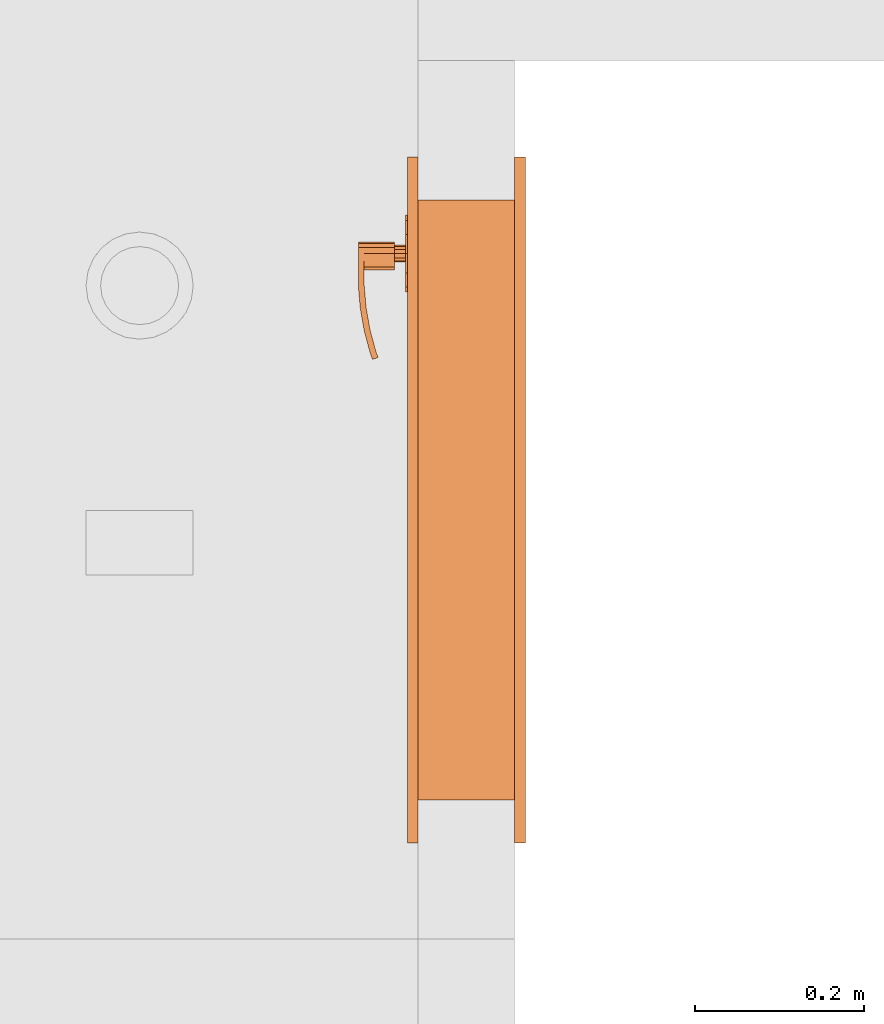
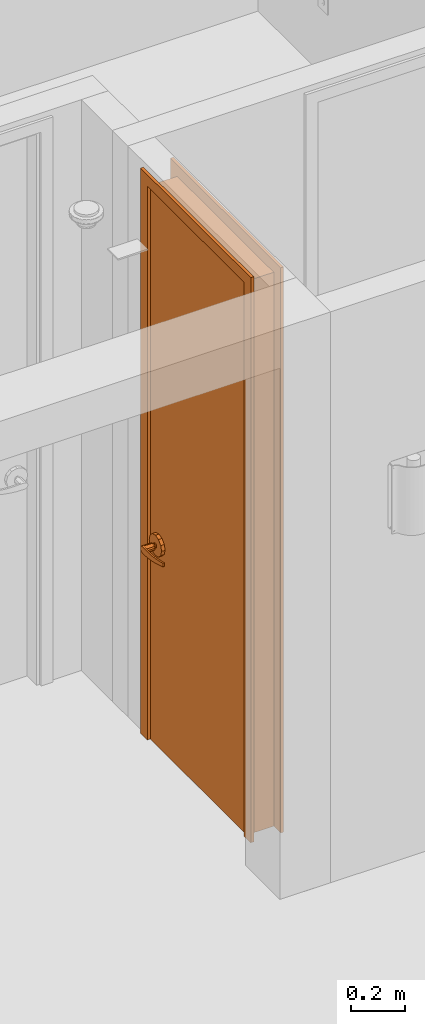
# One storey, part 22 of 48: 1 proxy.
"""IFC2X3 building model written with IfcOpenShell, lengths in inches."""

from ifc_helpers import new_model, entity, si_unit, converted_unit, derived_unit, money_unit, direction, frame, origin_with_axes, place, context, subcontext, project, spatial, open_shell, faceted_brep, surface_model, source, transform, mapped, type_object, element, save


model = new_model("IFC2X3")

# Units and contexts
model_context = context("Model", 3, precision=0.00039370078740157, world=origin_with_axes(), true_north=direction((0.0, 1.0)))
plan_context = context("Plan", 3, precision=0.00039370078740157, world=origin_with_axes(), true_north=direction((0.0, 1.0)))
body_context = subcontext(model_context, "Body", "Model", "MODEL_VIEW")
ifc_project = project(units=[converted_unit("LENGTHUNIT", "INCH", entity("IfcPositiveLengthMeasure", 0.0254), si_unit("LENGTHUNIT", "METRE"), dimensions=[1, 0, 0, 0, 0, 0, 0]), converted_unit("AREAUNIT", "SQUARE_FOOT", entity("IfcPositiveLengthMeasure", 0.09290304), si_unit("AREAUNIT", "SQUARE_METRE"), dimensions=[2, 0, 0, 0, 0, 0, 0]), si_unit("PLANEANGLEUNIT", "RADIAN"), si_unit("SOLIDANGLEUNIT", "STERADIAN"), money_unit("USD"), converted_unit("TIMEUNIT", "Year", entity("IfcTimeMeasure", 31557600.0), si_unit("TIMEUNIT", "SECOND"), dimensions=[0, 0, 1, 0, 0, 0, 0]), si_unit("MASSUNIT", "GRAM", prefix="KILO"), si_unit("THERMODYNAMICTEMPERATUREUNIT", "DEGREE_CELSIUS"), si_unit("LUMINOUSINTENSITYUNIT", "LUMEN"), si_unit("ENERGYUNIT", "JOULE", prefix="MEGA"), derived_unit("SPECIFICHEATCAPACITYUNIT", [(si_unit("ENERGYUNIT", "JOULE"), 1), (si_unit("MASSUNIT", "GRAM", prefix="KILO"), -1), (si_unit("THERMODYNAMICTEMPERATUREUNIT", "KELVIN"), -1)])], contexts=[model_context, plan_context])

# Site, building, storey
site_placement = place(None, origin_with_axes())
site = spatial("IfcSite", under=ifc_project, at=site_placement, Name="Site", CompositionType="ELEMENT")
building_placement = place(site_placement, origin_with_axes())
building = spatial("IfcBuilding", under=site, at=building_placement, Name="Building", CompositionType="ELEMENT")
storey_placement = place(building_placement, origin_with_axes())
storey = spatial("IfcBuildingStorey", under=building, at=storey_placement, Name="First Floor", CompositionType="ELEMENT", Elevation=0.0)

# Proxy
building_element_proxy_type = type_object("IfcBuildingElementProxyType", Name="D1", PredefinedType="NOTDEFINED")
shared_shape = source(origin_with_axes(), body_context, "Body", "SurfaceModel", [
    faceted_brep([(15.9999999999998, -4.999999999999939, 0.0), (13.99999999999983, -4.999999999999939, 0.0), (13.99999999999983, -4.499999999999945, 0.0), (15.9999999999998, -4.499999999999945, 0.0), (15.9999999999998, -4.999999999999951, 99.99999999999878), (13.99999999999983, -4.999999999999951, 97.99999999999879), (13.99999999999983, -4.499999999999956, 97.99999999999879), (15.9999999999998, -4.499999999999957, 99.99999999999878)], [[[0, 1, 2, 3]], [[0, 4, 5, 1]], [[1, 5, 6, 2]], [[3, 2, 6, 7]], [[4, 0, 3, 7]], [[5, 4, 7, 6]]]),
    faceted_brep([(-15.9999999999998, -4.999999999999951, 99.99999999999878), (-13.99999999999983, -4.999999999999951, 97.99999999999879), (-13.99999999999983, -4.499999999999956, 97.99999999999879), (-15.9999999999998, -4.499999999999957, 99.99999999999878), (-15.9999999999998, -4.999999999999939, 0.0), (-13.99999999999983, -4.999999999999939, 0.0), (-13.99999999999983, -4.499999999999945, 0.0), (-15.9999999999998, -4.499999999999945, 0.0)], [[[0, 1, 2, 3]], [[0, 4, 5, 1]], [[1, 5, 6, 2]], [[3, 2, 6, 7]], [[4, 0, 3, 7]], [[5, 4, 7, 6]]]),
    faceted_brep([(15.9999999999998, -4.999999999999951, 99.99999999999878), (13.99999999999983, -4.999999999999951, 97.99999999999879), (13.99999999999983, -4.499999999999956, 97.99999999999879), (15.9999999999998, -4.499999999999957, 99.99999999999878), (-15.9999999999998, -4.999999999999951, 99.99999999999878), (-13.99999999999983, -4.999999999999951, 97.99999999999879), (-13.99999999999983, -4.499999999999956, 97.99999999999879), (-15.9999999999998, -4.499999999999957, 99.99999999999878)], [[[0, 1, 2, 3]], [[0, 4, 5, 1]], [[1, 5, 6, 2]], [[3, 2, 6, 7]], [[4, 0, 3, 7]], [[5, 4, 7, 6]]]),
    faceted_brep([(15.9999999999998, 0.4999999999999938, 0.0), (15.9999999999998, 0.0, 0.0), (13.99999999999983, 0.0, 0.0), (13.99999999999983, 0.4999999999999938, 0.0), (15.9999999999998, 0.4999999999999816, 99.99999999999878), (15.9999999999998, 0.0, 99.99999999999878), (13.99999999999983, 0.0, 97.99999999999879), (13.99999999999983, 0.4999999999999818, 97.99999999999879)], [[[0, 1, 2, 3]], [[4, 5, 1, 0]], [[1, 5, 6, 2]], [[3, 2, 6, 7]], [[0, 3, 7, 4]], [[7, 6, 5, 4]]]),
    faceted_brep([(-15.9999999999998, 0.4999999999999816, 99.99999999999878), (-15.9999999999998, 0.0, 99.99999999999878), (-13.99999999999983, 0.0, 97.99999999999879), (-13.99999999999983, 0.4999999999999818, 97.99999999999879), (-15.9999999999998, 0.4999999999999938, 0.0), (-15.9999999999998, 0.0, 0.0), (-13.99999999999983, 0.0, 0.0), (-13.99999999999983, 0.4999999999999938, 0.0)], [[[0, 1, 2, 3]], [[4, 5, 1, 0]], [[1, 5, 6, 2]], [[3, 2, 6, 7]], [[0, 3, 7, 4]], [[7, 6, 5, 4]]]),
    faceted_brep([(15.9999999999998, 0.4999999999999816, 99.99999999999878), (15.9999999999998, 0.0, 99.99999999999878), (13.99999999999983, 0.0, 97.99999999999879), (13.99999999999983, 0.4999999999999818, 97.99999999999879), (-15.9999999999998, 0.4999999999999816, 99.99999999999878), (-15.9999999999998, 0.0, 99.99999999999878), (-13.99999999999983, 0.0, 97.99999999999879), (-13.99999999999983, 0.4999999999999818, 97.99999999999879)], [[[0, 1, 2, 3]], [[4, 5, 1, 0]], [[1, 5, 6, 2]], [[3, 2, 6, 7]], [[0, 3, 7, 4]], [[7, 6, 5, 4]]]),
    faceted_brep([(13.99999999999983, 0.0, 0.0), (13.99999999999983, -4.499999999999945, 0.0), (13.49999999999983, -4.499999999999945, 0.0), (13.49999999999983, 0.0, 0.0), (13.99999999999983, 0.0, 97.49999999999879), (13.99999999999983, -4.499999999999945, 97.49999999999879), (13.49999999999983, -4.499999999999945, 97.49999999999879), (13.49999999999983, 0.0, 97.49999999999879)], [[[0, 1, 2, 3]], [[4, 5, 1, 0]], [[1, 5, 6, 2]], [[3, 2, 6, 7]], [[0, 3, 7, 4]], [[7, 6, 5, 4]]]),
    faceted_brep([(-13.99999999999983, 0.0, 0.0), (-13.99999999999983, -4.499999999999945, 0.0), (-13.99999999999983, -4.499999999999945, 97.49999999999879), (-13.99999999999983, 0.0, 97.49999999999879), (-13.49999999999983, 0.0, 0.0), (-13.49999999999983, -4.499999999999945, 0.0), (-13.49999999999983, -4.499999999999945, 97.49999999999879), (-13.49999999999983, 0.0, 97.49999999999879)], [[[0, 1, 2, 3]], [[4, 5, 1, 0]], [[1, 5, 6, 2]], [[3, 2, 6, 7]], [[0, 3, 7, 4]], [[7, 6, 5, 4]]]),
    faceted_brep([(13.99999999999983, 0.0, 97.99999999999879), (13.99999999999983, -4.499999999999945, 97.99999999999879), (13.99999999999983, -4.499999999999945, 97.49999999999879), (13.99999999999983, 0.0, 97.49999999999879), (-13.99999999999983, 0.0, 97.99999999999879), (-13.99999999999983, -4.499999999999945, 97.99999999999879), (-13.99999999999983, -4.499999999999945, 97.49999999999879), (-13.49999999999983, -4.499999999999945, 97.49999999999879), (13.49999999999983, -4.499999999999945, 97.49999999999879), (13.49999999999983, 0.0, 97.49999999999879), (-13.49999999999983, 0.0, 97.49999999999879), (-13.99999999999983, 0.0, 97.49999999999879)], [[[0, 1, 2, 3]], [[4, 5, 1, 0]], [[1, 5, 6, 7, 8, 2]], [[3, 2, 8, 9]], [[0, 3, 9, 10, 11, 4]], [[11, 6, 5, 4]], [[10, 7, 6, 11]], [[9, 8, 7, 10]]]),
    surface_model("IfcShellBasedSurfaceModel", [(9.94865528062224, -2.340551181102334, 36.89566929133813), (9.94865528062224, -2.336614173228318, 36.89566929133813), (9.708661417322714, -2.336614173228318, 35.99999999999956), (9.708661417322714, -2.340551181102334, 35.99999999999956), (10.60433070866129, -2.340551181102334, 37.55134471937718), (10.60433070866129, -2.336614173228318, 37.55134471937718), (9.94865528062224, -1.753937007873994, 36.89566929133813), (9.708661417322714, -1.753937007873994, 35.99999999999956), (9.948655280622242, -2.336614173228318, 35.10433070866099), (9.948655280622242, -2.340551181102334, 35.10433070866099), (10.60433070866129, -2.340551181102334, 34.44865528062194), (11.49999999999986, -2.340551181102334, 34.20866141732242), (12.39566929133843, -2.340551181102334, 34.44865528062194), (13.05134471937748, -2.340551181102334, 35.10433070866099), (13.291338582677, -2.340551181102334, 35.99999999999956), (13.05134471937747, -2.340551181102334, 36.89566929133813), (12.39566929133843, -2.340551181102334, 37.55134471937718), (11.49999999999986, -2.340551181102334, 37.7913385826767), (11.49999999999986, -2.336614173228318, 37.7913385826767), (10.60433070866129, -1.753937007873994, 37.55134471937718), (9.94865528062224, -1.749999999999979, 36.89566929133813), (9.708661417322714, -1.749999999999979, 35.99999999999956), (9.948655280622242, -1.753937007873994, 35.10433070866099), (10.60433070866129, -2.336614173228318, 34.44865528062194), (11.49999999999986, -2.336614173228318, 34.20866141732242), (12.39566929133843, -2.336614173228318, 34.44865528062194), (13.05134471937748, -2.336614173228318, 35.10433070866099), (13.291338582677, -2.336614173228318, 35.99999999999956), (13.05134471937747, -2.336614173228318, 36.89566929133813), (12.39566929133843, -2.336614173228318, 37.55134471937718), (11.49999999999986, -1.753937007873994, 37.7913385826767), (10.60433070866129, -1.749999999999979, 37.55134471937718), (9.948655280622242, -1.749999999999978, 35.10433070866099), (10.60433070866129, -1.753937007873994, 34.44865528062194), (11.49999999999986, -1.753937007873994, 34.20866141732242), (12.39566929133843, -1.753937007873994, 34.44865528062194), (13.05134471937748, -1.753937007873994, 35.10433070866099), (13.291338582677, -1.753937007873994, 35.99999999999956), (13.05134471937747, -1.753937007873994, 36.89566929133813), (12.39566929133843, -1.753937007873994, 37.55134471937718), (11.49999999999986, -1.749999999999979, 37.7913385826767), (10.60433070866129, -1.749999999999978, 34.44865528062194), (11.49999999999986, -1.749999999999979, 34.20866141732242), (12.39566929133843, -1.749999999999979, 34.44865528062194), (13.05134471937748, -1.749999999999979, 35.10433070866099), (13.291338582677, -1.749999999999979, 35.99999999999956), (13.05134471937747, -1.749999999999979, 36.89566929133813), (12.39566929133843, -1.749999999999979, 37.55134471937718)], [open_shell([[[0, 1, 2, 3]], [[4, 5, 1, 0]], [[1, 6, 7, 2]], [[3, 2, 8, 9]], [[3, 9, 10, 11, 12, 13, 14, 15, 16, 17, 4, 0]], [[17, 18, 5, 4]], [[5, 19, 6, 1]], [[6, 20, 21, 7]], [[2, 7, 22, 8]], [[9, 8, 23, 10]], [[10, 23, 24, 11]], [[11, 24, 25, 12]], [[12, 25, 26, 13]], [[13, 26, 27, 14]], [[14, 27, 28, 15]], [[15, 28, 29, 16]], [[16, 29, 18, 17]], [[18, 30, 19, 5]], [[19, 31, 20, 6]], [[7, 21, 32, 22]], [[8, 22, 33, 23]], [[23, 33, 34, 24]], [[24, 34, 35, 25]], [[25, 35, 36, 26]], [[26, 36, 37, 27]], [[27, 37, 38, 28]], [[28, 38, 39, 29]], [[29, 39, 30, 18]], [[30, 40, 31, 19]], [[22, 32, 41, 33]], [[33, 41, 42, 34]], [[34, 42, 43, 35]], [[35, 43, 44, 36]], [[36, 44, 45, 37]], [[37, 45, 46, 38]], [[38, 46, 47, 39]], [[39, 47, 40, 30]]])]),
    faceted_brep([(11.69685039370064, -2.340551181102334, 35.65904511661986), (11.49999999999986, -2.340551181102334, 35.60629921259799), (11.30314960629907, -2.340551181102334, 35.65904511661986), (11.15904511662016, -2.340551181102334, 35.80314960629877), (11.10629921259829, -2.340551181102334, 35.99999999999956), (11.15904511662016, -2.340551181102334, 36.19685039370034), (11.30314960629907, -2.340551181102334, 36.34095488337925), (11.49999999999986, -2.340551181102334, 36.39370078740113), (11.69685039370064, -2.340551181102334, 36.34095488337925), (11.84095488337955, -2.340551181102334, 36.19685039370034), (11.89370078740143, -2.340551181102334, 35.99999999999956), (11.84095488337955, -2.340551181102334, 35.80314960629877), (11.69685039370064, -2.852362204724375, 35.65904511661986), (11.49999999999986, -2.852362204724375, 35.60629921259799), (11.30314960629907, -2.852362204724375, 35.65904511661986), (11.15904511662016, -2.852362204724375, 35.80314960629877), (11.10629921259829, -2.852362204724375, 35.99999999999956), (11.15904511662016, -2.852362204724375, 36.19685039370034), (11.30314960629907, -2.852362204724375, 36.34095488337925), (11.49999999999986, -2.852362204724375, 36.39370078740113), (11.69685039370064, -2.852362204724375, 36.34095488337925), (11.84095488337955, -2.852362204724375, 36.19685039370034), (11.89370078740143, -2.852362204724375, 35.99999999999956), (11.84095488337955, -2.852362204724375, 35.80314960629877)], [[[0, 1, 2, 3, 4, 5, 6, 7, 8, 9, 10, 11]], [[0, 12, 13, 1]], [[1, 13, 14, 2]], [[2, 14, 15, 3]], [[3, 15, 16, 4]], [[4, 16, 17, 5]], [[5, 17, 18, 6]], [[6, 18, 19, 7]], [[7, 19, 20, 8]], [[8, 20, 21, 9]], [[9, 21, 22, 10]], [[10, 22, 23, 11]], [[11, 23, 12, 0]], [[12, 23, 22, 21, 20, 19, 18, 17, 16, 15, 14, 13]]]),
    faceted_brep([(11.49999999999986, -2.852362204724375, 36.55118110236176), (11.49999999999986, -4.269685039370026, 36.55118110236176), (11.77559055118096, -4.269685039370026, 36.47733683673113), (11.77559055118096, -2.852362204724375, 36.47733683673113), (11.10629921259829, -2.852362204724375, 36.47244094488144), (11.10629921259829, -4.269685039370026, 36.47244094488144), (10.87352117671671, -4.269685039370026, 36.35358914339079), (10.73705189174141, -4.269685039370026, 36.13068221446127), (10.73705189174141, -4.269685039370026, 35.86931778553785), (10.87352117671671, -4.269685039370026, 35.64641085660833), (11.10629921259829, -4.269685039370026, 35.52755905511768), (11.49999999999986, -4.269685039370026, 35.44881889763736), (11.77559055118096, -4.269685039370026, 35.52266316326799), (11.97733683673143, -4.269685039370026, 35.72440944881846), (12.05118110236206, -4.269685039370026, 35.99999999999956), (11.97733683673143, -4.269685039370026, 36.27559055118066), (11.97733683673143, -2.852362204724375, 36.27559055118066), (12.05118110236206, -2.852362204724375, 35.99999999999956), (11.97733683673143, -2.852362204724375, 35.72440944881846), (11.77559055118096, -2.852362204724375, 35.52266316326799), (11.49999999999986, -2.852362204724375, 35.44881889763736), (11.10629921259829, -2.852362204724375, 35.52755905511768), (10.87352117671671, -2.852362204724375, 35.64641085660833), (10.73705189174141, -2.852362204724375, 35.86931778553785), (10.73705189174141, -2.852362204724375, 36.13068221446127), (10.87352117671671, -2.852362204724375, 36.35358914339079)], [[[0, 1, 2, 3]], [[4, 5, 1, 0]], [[1, 5, 6, 7, 8, 9, 10, 11, 12, 13, 14, 15, 2]], [[3, 2, 15, 16]], [[0, 3, 16, 17, 18, 19, 20, 21, 22, 23, 24, 25, 4]], [[25, 6, 5, 4]], [[24, 7, 6, 25]], [[23, 8, 7, 24]], [[22, 9, 8, 23]], [[21, 10, 9, 22]], [[20, 11, 10, 21]], [[19, 12, 11, 20]], [[18, 13, 12, 19]], [[17, 14, 13, 18]], [[16, 15, 14, 17]]]),
    surface_model("IfcShellBasedSurfaceModel", [(11.49999999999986, -4.269685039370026, 36.55118110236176), (11.49999999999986, -4.545275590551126, 36.55118110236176), (11.77559055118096, -4.545275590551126, 36.47733683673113), (11.77559055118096, -4.269685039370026, 36.47733683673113), (10.51574803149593, -4.269685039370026, 36.55118110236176), (10.51574803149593, -4.545275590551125, 36.55118110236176), (10.51574803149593, -4.545275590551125, 35.44881889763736), (11.49999999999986, -4.545275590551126, 35.44881889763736), (11.77559055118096, -4.545275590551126, 35.52266316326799), (11.97733683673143, -4.545275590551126, 35.72440944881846), (12.05118110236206, -4.545275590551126, 35.99999999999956), (11.97733683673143, -4.545275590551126, 36.27559055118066), (11.97733683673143, -4.269685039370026, 36.27559055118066), (12.05118110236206, -4.269685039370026, 35.99999999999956), (11.97733683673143, -4.269685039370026, 35.72440944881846), (11.77559055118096, -4.269685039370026, 35.52266316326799), (11.49999999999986, -4.269685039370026, 35.44881889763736), (10.51574803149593, -4.269685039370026, 35.44881889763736)], [open_shell([[[0, 1, 2, 3]], [[4, 5, 1, 0]], [[1, 5, 6, 7, 8, 9, 10, 11, 2]], [[3, 2, 11, 12]], [[0, 3, 12, 13, 14, 15, 16, 17, 4]], [[16, 7, 6, 17]], [[15, 8, 7, 16]], [[14, 9, 8, 15]], [[13, 10, 9, 14]], [[12, 11, 10, 13]]])]),
    surface_model("IfcShellBasedSurfaceModel", [(10.51574803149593, -4.269685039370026, 35.44881889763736), (9.988035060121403, -4.545275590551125, 35.47974008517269), (10.00006760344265, -4.269685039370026, 35.47974008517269), (10.51574803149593, -4.545275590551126, 35.44881889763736), (8.93662533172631, -4.453289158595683, 35.54158246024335), (10.00006760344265, -4.269685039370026, 36.52025991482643), (10.51574803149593, -4.269685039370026, 36.55118110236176), (10.51574803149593, -4.545275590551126, 36.55118110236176), (9.988035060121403, -4.545275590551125, 36.52025991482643), (8.93662533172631, -4.453289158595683, 36.45841753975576), (8.972631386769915, -4.179796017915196, 35.54158246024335), (8.972631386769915, -4.179796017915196, 36.45841753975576), (7.897233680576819, -4.270016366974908, 36.3965751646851), (7.897233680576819, -4.270016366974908, 35.60342483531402), (7.956939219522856, -4.000702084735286, 35.60342483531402), (7.956939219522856, -4.000702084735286, 36.3965751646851), (6.877770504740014, -3.996852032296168, 36.33473278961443), (6.877770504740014, -3.996852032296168, 35.66526721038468), (6.960721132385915, -3.733766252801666, 35.66526721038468), (6.960721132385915, -3.733766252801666, 36.33473278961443), (6.560582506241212, -3.881405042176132, 36.31496062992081), (6.560582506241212, -3.881405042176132, 35.6850393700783), (6.650765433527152, -3.620951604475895, 35.6850393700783), (6.650765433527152, -3.620951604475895, 36.31496062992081)], [open_shell([[[0, 1, 2]], [[0, 3, 1]], [[2, 1, 4]], [[0, 2, 5, 6]], [[3, 7, 8, 1]], [[1, 8, 9, 4]], [[2, 4, 10]], [[2, 10, 11, 5]], [[5, 7, 6]], [[5, 8, 7]], [[11, 9, 8]], [[4, 9, 12, 13]], [[10, 4, 13]], [[10, 14, 15, 11]], [[11, 8, 5]], [[15, 9, 11]], [[15, 12, 9]], [[13, 12, 16, 17]], [[10, 13, 14]], [[14, 18, 19, 15]], [[19, 12, 15]], [[19, 16, 12]], [[17, 16, 20, 21]], [[14, 13, 17]], [[14, 17, 18]], [[18, 22, 23, 19]], [[23, 16, 19]], [[23, 20, 16]], [[22, 21, 20, 23]], [[18, 17, 21]], [[18, 21, 22]]])]),
    surface_model("IfcShellBasedSurfaceModel", [(9.948655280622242, 0.5905511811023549, 36.89566929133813), (9.708661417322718, 0.5905511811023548, 35.99999999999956), (9.708661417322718, 0.5866141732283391, 35.99999999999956), (9.948655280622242, 0.5866141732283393, 36.89566929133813), (10.60433070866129, 0.5905511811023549, 37.55134471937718), (11.49999999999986, 0.590551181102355, 37.7913385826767), (12.39566929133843, 0.590551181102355, 37.55134471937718), (13.05134471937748, 0.590551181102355, 36.89566929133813), (13.291338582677, 0.590551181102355, 35.99999999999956), (13.05134471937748, 0.5905511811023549, 35.10433070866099), (12.39566929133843, 0.5905511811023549, 34.44865528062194), (11.49999999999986, 0.5905511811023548, 34.20866141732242), (10.60433070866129, 0.5905511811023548, 34.44865528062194), (9.948655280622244, 0.5905511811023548, 35.10433070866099), (9.948655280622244, 0.5866141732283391, 35.10433070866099), (9.708661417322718, 0.00393700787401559, 35.99999999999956), (9.948655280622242, 0.00393700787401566, 36.89566929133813), (10.60433070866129, 0.5866141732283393, 37.55134471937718), (11.49999999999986, 0.5866141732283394, 37.7913385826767), (12.39566929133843, 0.5866141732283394, 37.55134471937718), (13.05134471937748, 0.5866141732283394, 36.89566929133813), (13.291338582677, 0.5866141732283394, 35.99999999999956), (13.05134471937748, 0.5866141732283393, 35.10433070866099), (12.39566929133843, 0.5866141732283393, 34.44865528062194), (11.49999999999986, 0.5866141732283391, 34.20866141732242), (10.60433070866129, 0.5866141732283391, 34.44865528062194), (9.948655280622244, 0.00393700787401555, 35.10433070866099), (9.708661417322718, 0.0, 35.99999999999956), (9.948655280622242, 0.0, 36.89566929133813), (10.60433070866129, 0.00393700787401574, 37.55134471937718), (11.49999999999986, 0.00393700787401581, 37.7913385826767), (12.39566929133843, 0.00393700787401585, 37.55134471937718), (13.05134471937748, 0.00393700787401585, 36.89566929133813), (13.291338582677, 0.00393700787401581, 35.99999999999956), (13.05134471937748, 0.00393700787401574, 35.10433070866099), (12.39566929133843, 0.00393700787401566, 34.44865528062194), (11.49999999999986, 0.00393700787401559, 34.20866141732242), (10.60433070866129, 0.00393700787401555, 34.44865528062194), (9.948655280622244, 0.0, 35.10433070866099), (10.60433070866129, 0.0, 37.55134471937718), (11.49999999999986, 0.0, 37.7913385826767), (12.39566929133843, 0.0, 37.55134471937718), (13.05134471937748, 0.0, 36.89566929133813), (13.291338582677, 0.0, 35.99999999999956), (13.05134471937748, 0.0, 35.10433070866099), (12.39566929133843, 0.0, 34.44865528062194), (11.49999999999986, 0.0, 34.20866141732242), (10.60433070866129, 0.0, 34.44865528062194)], [open_shell([[[0, 1, 2, 3]], [[1, 0, 4, 5, 6, 7, 8, 9, 10, 11, 12, 13]], [[1, 13, 14, 2]], [[3, 2, 15, 16]], [[4, 0, 3, 17]], [[5, 4, 17, 18]], [[6, 5, 18, 19]], [[7, 6, 19, 20]], [[8, 7, 20, 21]], [[9, 8, 21, 22]], [[10, 9, 22, 23]], [[11, 10, 23, 24]], [[12, 11, 24, 25]], [[13, 12, 25, 14]], [[2, 14, 26, 15]], [[16, 15, 27, 28]], [[17, 3, 16, 29]], [[18, 17, 29, 30]], [[19, 18, 30, 31]], [[20, 19, 31, 32]], [[21, 20, 32, 33]], [[22, 21, 33, 34]], [[23, 22, 34, 35]], [[24, 23, 35, 36]], [[25, 24, 36, 37]], [[14, 25, 37, 26]], [[15, 26, 38, 27]], [[29, 16, 28, 39]], [[30, 29, 39, 40]], [[31, 30, 40, 41]], [[32, 31, 41, 42]], [[33, 32, 42, 43]], [[34, 33, 43, 44]], [[35, 34, 44, 45]], [[36, 35, 45, 46]], [[37, 36, 46, 47]], [[26, 37, 47, 38]]])]),
    faceted_brep([(11.69685039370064, 0.5905511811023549, 35.65904511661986), (11.84095488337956, 0.5905511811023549, 35.80314960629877), (11.89370078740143, 0.5905511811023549, 35.99999999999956), (11.84095488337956, 0.5905511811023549, 36.19685039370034), (11.69685039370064, 0.5905511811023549, 36.34095488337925), (11.49999999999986, 0.5905511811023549, 36.39370078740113), (11.30314960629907, 0.5905511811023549, 36.34095488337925), (11.15904511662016, 0.5905511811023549, 36.19685039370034), (11.10629921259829, 0.5905511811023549, 35.99999999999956), (11.15904511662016, 0.5905511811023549, 35.80314960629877), (11.30314960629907, 0.5905511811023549, 35.65904511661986), (11.49999999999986, 0.5905511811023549, 35.60629921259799), (11.69685039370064, 1.102362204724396, 35.65904511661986), (11.84095488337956, 1.102362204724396, 35.80314960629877), (11.89370078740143, 1.102362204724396, 35.99999999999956), (11.84095488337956, 1.102362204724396, 36.19685039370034), (11.69685039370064, 1.102362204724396, 36.34095488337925), (11.49999999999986, 1.102362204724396, 36.39370078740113), (11.30314960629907, 1.102362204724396, 36.34095488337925), (11.15904511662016, 1.102362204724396, 36.19685039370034), (11.10629921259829, 1.102362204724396, 35.99999999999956), (11.15904511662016, 1.102362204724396, 35.80314960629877), (11.30314960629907, 1.102362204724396, 35.65904511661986), (11.49999999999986, 1.102362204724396, 35.60629921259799)], [[[0, 1, 2, 3, 4, 5, 6, 7, 8, 9, 10, 11]], [[1, 0, 12, 13]], [[2, 1, 13, 14]], [[3, 2, 14, 15]], [[4, 3, 15, 16]], [[5, 4, 16, 17]], [[6, 5, 17, 18]], [[7, 6, 18, 19]], [[8, 7, 19, 20]], [[9, 8, 20, 21]], [[10, 9, 21, 22]], [[11, 10, 22, 23]], [[0, 11, 23, 12]], [[12, 23, 22, 21, 20, 19, 18, 17, 16, 15, 14, 13]]]),
    faceted_brep([(11.49999999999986, 1.102362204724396, 36.55118110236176), (11.77559055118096, 1.102362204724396, 36.47733683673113), (11.77559055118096, 2.519685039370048, 36.47733683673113), (11.49999999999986, 2.519685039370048, 36.55118110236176), (11.10629921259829, 1.102362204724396, 36.47244094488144), (10.87352117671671, 1.102362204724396, 36.35358914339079), (10.73705189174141, 1.102362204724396, 36.13068221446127), (10.73705189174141, 1.102362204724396, 35.86931778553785), (10.87352117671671, 1.102362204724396, 35.64641085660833), (11.10629921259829, 1.102362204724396, 35.52755905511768), (11.49999999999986, 1.102362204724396, 35.44881889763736), (11.77559055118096, 1.102362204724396, 35.52266316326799), (11.97733683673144, 1.102362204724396, 35.72440944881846), (12.05118110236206, 1.102362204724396, 35.99999999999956), (11.97733683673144, 1.102362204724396, 36.27559055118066), (11.97733683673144, 2.519685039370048, 36.27559055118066), (12.05118110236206, 2.519685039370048, 35.99999999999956), (11.97733683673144, 2.519685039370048, 35.72440944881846), (11.77559055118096, 2.519685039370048, 35.52266316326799), (11.49999999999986, 2.519685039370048, 35.44881889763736), (11.10629921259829, 2.519685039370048, 35.52755905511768), (10.87352117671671, 2.519685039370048, 35.64641085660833), (10.73705189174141, 2.519685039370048, 35.86931778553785), (10.73705189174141, 2.519685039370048, 36.13068221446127), (10.87352117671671, 2.519685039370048, 36.35358914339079), (11.10629921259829, 2.519685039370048, 36.47244094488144)], [[[0, 1, 2, 3]], [[0, 4, 5, 6, 7, 8, 9, 10, 11, 12, 13, 14, 1]], [[1, 14, 15, 2]], [[3, 2, 15, 16, 17, 18, 19, 20, 21, 22, 23, 24, 25]], [[4, 0, 3, 25]], [[5, 4, 25, 24]], [[6, 5, 24, 23]], [[7, 6, 23, 22]], [[8, 7, 22, 21]], [[9, 8, 21, 20]], [[10, 9, 20, 19]], [[11, 10, 19, 18]], [[12, 11, 18, 17]], [[13, 12, 17, 16]], [[14, 13, 16, 15]]]),
    surface_model("IfcShellBasedSurfaceModel", [(11.49999999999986, 2.519685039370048, 36.55118110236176), (11.77559055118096, 2.519685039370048, 36.47733683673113), (11.77559055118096, 2.795275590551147, 36.47733683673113), (11.49999999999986, 2.795275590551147, 36.55118110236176), (10.51574803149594, 2.519685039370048, 36.55118110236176), (10.51574803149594, 2.519685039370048, 35.44881889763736), (11.49999999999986, 2.519685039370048, 35.44881889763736), (11.77559055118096, 2.519685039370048, 35.52266316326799), (11.97733683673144, 2.519685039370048, 35.72440944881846), (12.05118110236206, 2.519685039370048, 35.99999999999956), (11.97733683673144, 2.519685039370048, 36.27559055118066), (11.97733683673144, 2.795275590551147, 36.27559055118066), (12.05118110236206, 2.795275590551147, 35.99999999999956), (11.97733683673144, 2.795275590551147, 35.72440944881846), (11.77559055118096, 2.795275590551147, 35.52266316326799), (11.49999999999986, 2.795275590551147, 35.44881889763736), (10.51574803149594, 2.795275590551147, 35.44881889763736), (10.51574803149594, 2.795275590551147, 36.55118110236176)], [open_shell([[[0, 1, 2, 3]], [[0, 4, 5, 6, 7, 8, 9, 10, 1]], [[1, 10, 11, 2]], [[3, 2, 11, 12, 13, 14, 15, 16, 17]], [[4, 0, 3, 17]], [[6, 5, 16, 15]], [[7, 6, 15, 14]], [[8, 7, 14, 13]], [[9, 8, 13, 12]], [[10, 9, 12, 11]]])]),
    surface_model("IfcShellBasedSurfaceModel", [(10.51574803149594, 2.519685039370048, 35.44881889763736), (10.00006760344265, 2.519685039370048, 35.47974008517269), (9.988035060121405, 2.795275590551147, 35.47974008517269), (10.51574803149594, 2.519685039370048, 36.55118110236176), (10.00006760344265, 2.519685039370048, 36.52025991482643), (8.936625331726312, 2.703289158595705, 35.54158246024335), (10.51574803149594, 2.795275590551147, 35.44881889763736), (10.51574803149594, 2.795275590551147, 36.55118110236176), (8.972631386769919, 2.429796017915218, 36.45841753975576), (8.972631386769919, 2.429796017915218, 35.54158246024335), (8.936625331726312, 2.703289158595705, 36.45841753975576), (9.988035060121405, 2.795275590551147, 36.52025991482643), (7.956939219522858, 2.250702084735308, 36.3965751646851), (7.956939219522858, 2.250702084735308, 35.60342483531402), (7.897233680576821, 2.52001636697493, 35.60342483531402), (7.897233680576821, 2.52001636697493, 36.3965751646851), (6.960721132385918, 1.983766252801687, 36.33473278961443), (6.960721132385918, 1.983766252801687, 35.66526721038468), (6.877770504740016, 2.24685203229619, 35.66526721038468), (6.877770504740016, 2.24685203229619, 36.33473278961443), (6.650765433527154, 1.870951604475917, 36.31496062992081), (6.650765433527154, 1.870951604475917, 35.6850393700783), (6.560582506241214, 2.131405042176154, 35.6850393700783), (6.560582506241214, 2.131405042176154, 36.31496062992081)], [open_shell([[[0, 1, 2]], [[0, 3, 4, 1]], [[1, 5, 2]], [[0, 2, 6]], [[4, 3, 7]], [[1, 4, 8, 9]], [[1, 9, 5]], [[2, 5, 10, 11]], [[6, 2, 11, 7]], [[4, 7, 11]], [[8, 4, 11]], [[9, 8, 12, 13]], [[9, 14, 5]], [[5, 14, 15, 10]], [[8, 11, 10]], [[12, 8, 10]], [[13, 12, 16, 17]], [[9, 13, 14]], [[14, 18, 19, 15]], [[12, 10, 15]], [[16, 12, 15]], [[17, 16, 20, 21]], [[13, 17, 18]], [[13, 18, 14]], [[18, 22, 23, 19]], [[16, 15, 19]], [[20, 16, 19]], [[21, 20, 23, 22]], [[17, 21, 22]], [[17, 22, 18]], [[20, 19, 23]]])]),
    faceted_brep([(13.46062992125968, -1.749999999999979, 0.03937007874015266), (13.46062992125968, -1.749999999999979, 97.46062992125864), (-13.46062992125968, -1.749999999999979, 97.46062992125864), (-13.46062992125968, -1.749999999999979, 0.03937007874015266), (13.46062992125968, 0.0, 0.03937007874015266), (13.46062992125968, 0.0, 97.46062992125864), (-13.46062992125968, 0.0, 97.46062992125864), (-13.46062992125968, 0.0, 0.03937007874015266)], [[[0, 1, 2, 3]], [[4, 5, 1, 0]], [[2, 1, 5, 6]], [[3, 2, 6, 7]], [[7, 4, 0, 3]], [[7, 6, 5, 4]]]),
    faceted_brep([(-13.49999999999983, 0.0, 0.0), (13.49999999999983, 0.0, 0.0), (13.49999999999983, -1.749999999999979, 0.0), (-13.49999999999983, -1.749999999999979, 0.0), (-13.49999999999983, 0.0, 97.49999999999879), (13.49999999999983, 0.0, 97.49999999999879), (-13.46062992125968, 0.0, 0.039370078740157), (13.46062992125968, 0.0, 0.039370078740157), (13.46062992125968, 0.0, 97.46062992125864), (-13.46062992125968, 0.0, 97.46062992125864), (13.49999999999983, -1.749999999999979, 97.49999999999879), (-13.49999999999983, -1.749999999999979, 97.49999999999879), (-13.46062992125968, -1.749999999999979, 0.039370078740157), (-13.46062992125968, -1.749999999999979, 97.46062992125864), (13.46062992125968, -1.749999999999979, 97.46062992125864), (13.46062992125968, -1.749999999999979, 0.039370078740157)], [[[0, 1, 2, 3]], [[0, 4, 5, 1], [6, 7, 8, 9]], [[1, 5, 10, 2]], [[3, 2, 10, 11], [12, 13, 14, 15]], [[4, 0, 3, 11]], [[5, 4, 11, 10]], [[7, 6, 12, 15]], [[8, 7, 15, 14]], [[9, 8, 14, 13]], [[6, 9, 13, 12]]]),
])
proxy_placement = place(storey_placement, frame((-3.999999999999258, 373.9963090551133, 0.0), z_axis=(0.0, 0.0, 1.0), x_axis=(0.0, 1.0, 0.0)))
element("IfcBuildingElementProxy", 1, at=proxy_placement, inside=storey, type_object=building_element_proxy_type, Name="D-07", context=body_context, shape_type="MappedRepresentation", body=[
    mapped(shared_shape, transform((13.99999999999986, 0.0, 0.0))),
])

save(model, "model.ifc")
